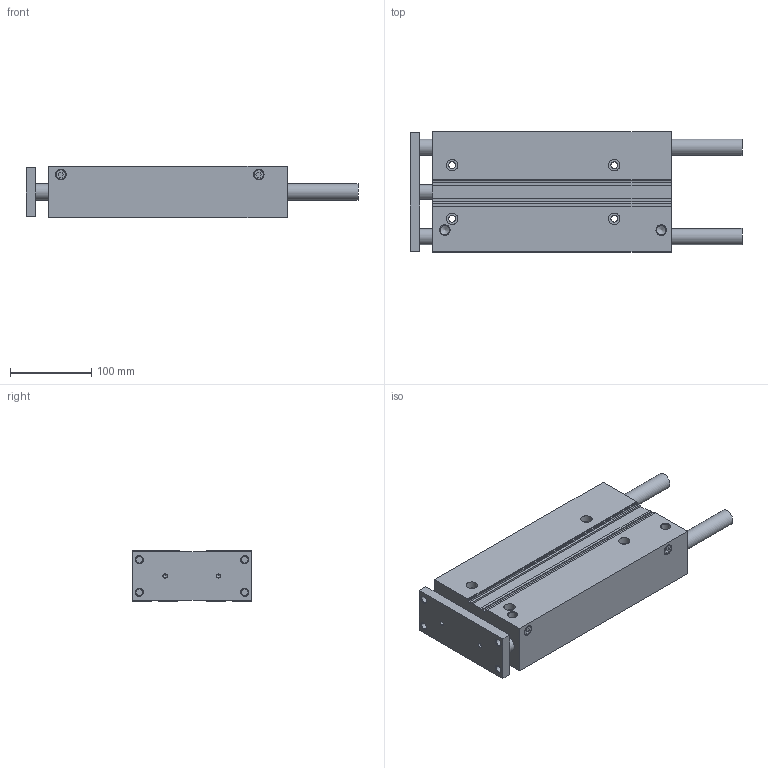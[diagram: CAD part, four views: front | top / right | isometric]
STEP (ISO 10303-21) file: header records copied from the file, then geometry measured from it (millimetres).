
FILE_DESCRIPTION(/* description */ ('STEP AP214'),/* implementation_level */ '2;1');
FILE_NAME(/* name */ 'MGPL50TF-250Z(0_0)',/* time_stamp */ '2025-09-09T08:07:50+02:00',/* author */ ('License CC BY-ND 4.0'),/* organization */ ('CADENAS'),/* preprocessor_version */ 'ST-DEVELOPER v19.3',/* originating_system */ 'PARTsolutions',/* authorisation */ ' ');
FILE_SCHEMA (('AUTOMOTIVE_DESIGN {1 0 10303 214 3 1 1}'));
Length unit declared in the file: millimetre
Products named in the file (4): MGPL50TF-250Z(0_0); MGPL50-250Z(0)_BODY; MGPL50-250Z(0)_ROD; MGP-Z_PLUG_50
Assembly tree (4 placements, depth 2):
  MGPL50TF-250Z(0_0)
    MGPL50-250Z(0)_BODY
    MGPL50-250Z(0)_ROD
    MGP-Z_PLUG_50  x2
Bounding box: 409.5 x 148 x 64 mm (x, y, z)
Volume: 2357188.9 mm3; surface area: 362096.2 mm2
Topology: 4 solids, 4 shells, 196 faces, 460 edges, 292 vertices
Faces by surface type: plane 104, cylinder 54, cone 38
Full cylindrical faces by diameter (mm): 5 x6, 8.376 x12, 8.6 x4, 10 x4, 11.445 x4, 13.157 x2, 14 x4, 18 x2, 20 x4, 50 x2
Entity records: 4913 total; most frequent: DIRECTION 848, CARTESIAN_POINT 801, ORIENTED_EDGE 678, EDGE_CURVE 339, AXIS2_PLACEMENT_3D 320, FACE_BOUND 316, EDGE_LOOP 302, VERTEX_POINT 273
